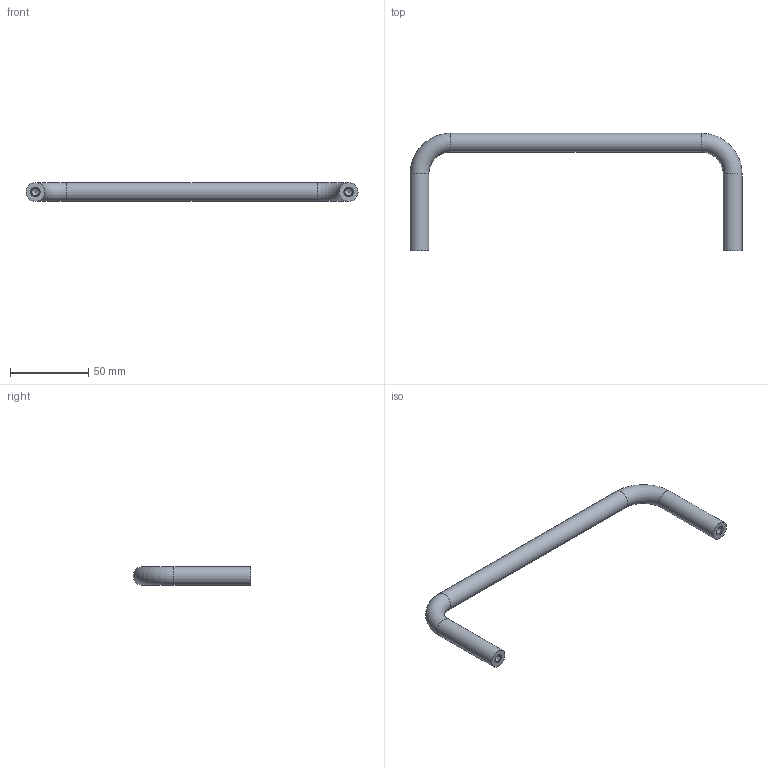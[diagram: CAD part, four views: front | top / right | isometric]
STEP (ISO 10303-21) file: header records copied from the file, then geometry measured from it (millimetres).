
FILE_DESCRIPTION(/* description */ ('STEP AP214'),/* implementation_level */ '2;1');
FILE_NAME(/* name */ 'Cabinet U-Handle_ Stainless Steel GN 435-NI-12-200-75-GS',/* time_stamp */ '2023-12-15T08:43:40+01:00',/* author */ ('License CC BY-ND 4.0'),/* organization */ ('CADENAS'),/* preprocessor_version */ 'ST-DEVELOPER v19.3',/* originating_system */ 'PARTsolutions',/* authorisation */ ' ');
FILE_SCHEMA (('AUTOMOTIVE_DESIGN {1 0 10303 214 3 1 1}'));
Length unit declared in the file: millimetre
Products named in the file (1): Cabinet U-Handle, Stainless Steel GN 435-NI-12-200-75-GS
Bounding box: 212 x 75 x 12 mm (x, y, z)
Volume: 35654 mm3; surface area: 12812.9 mm2
Topology: 1 solids, 1 shells, 13 faces, 30 edges, 19 vertices
Faces by surface type: cylinder 5, cone 4, plane 2, torus 2
Full cylindrical faces by diameter (mm): 4.917 x2, 12 x3
Entity records: 292 total; most frequent: DIRECTION 52, CARTESIAN_POINT 40, FACE_BOUND 26, AXIS2_PLACEMENT_3D 26, ORIENTED_EDGE 24, EDGE_LOOP 24, VERTEX_POINT 14, ADVANCED_FACE 13
